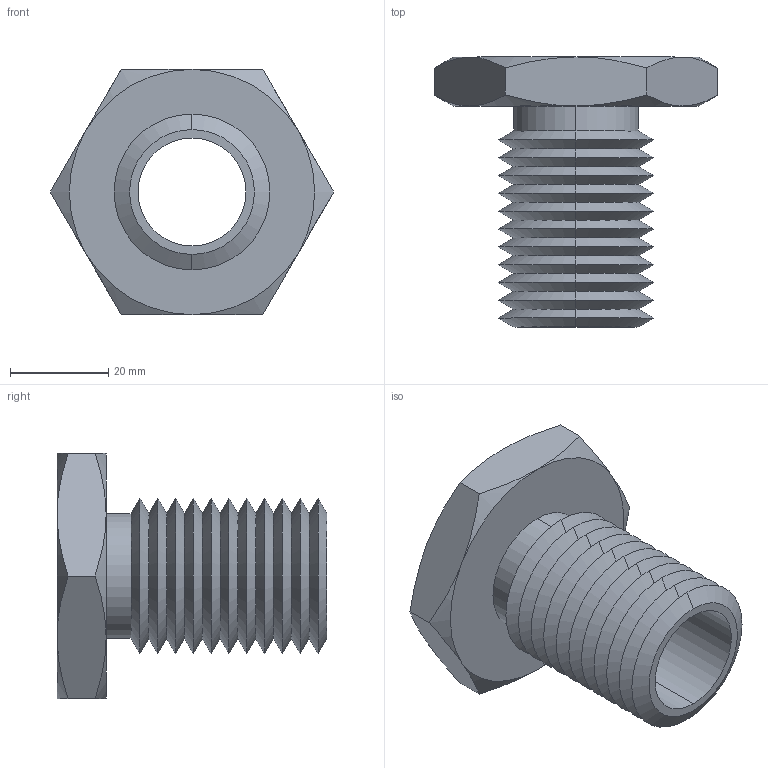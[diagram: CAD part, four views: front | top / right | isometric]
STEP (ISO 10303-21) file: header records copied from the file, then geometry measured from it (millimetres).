
FILE_DESCRIPTION (( 'STEP AP203' ), '1' );
FILE_NAME ('63302.W5125_M22x2,5.step', '2013-12-08T11:58:42', ( 'User' ), ( '' ), 'SwSTEP 2.0', 'SolidWorks 2009', '' );
FILE_SCHEMA (( 'CONFIG_CONTROL_DESIGN' ));
Length unit declared in the file: millimetre
Products named in the file (1): 63302.W5125_M22x2,5
Bounding box: 57.73 x 55 x 50 mm (x, y, z)
Volume: 28587.8 mm3; surface area: 16389.7 mm2
Topology: 1 solids, 1 shells, 71 faces, 146 edges, 78 vertices
Faces by surface type: cone 58, plane 9, cylinder 4
Entity records: 2039 total; most frequent: CARTESIAN_POINT 480, DIRECTION 332, ORIENTED_EDGE 292, EDGE_CURVE 146, AXIS2_PLACEMENT_3D 138, VERTEX_POINT 78, EDGE_LOOP 74, ADVANCED_FACE 71
